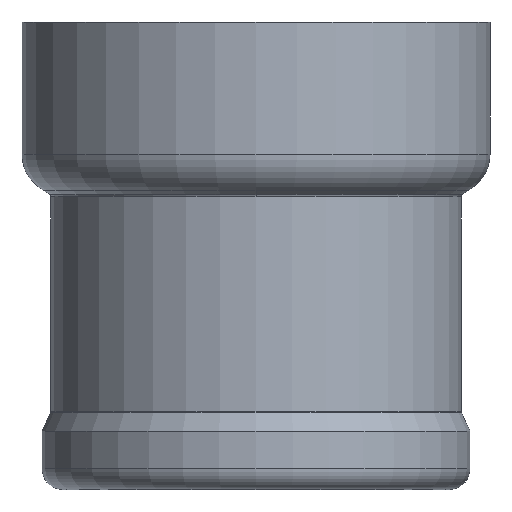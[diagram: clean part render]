
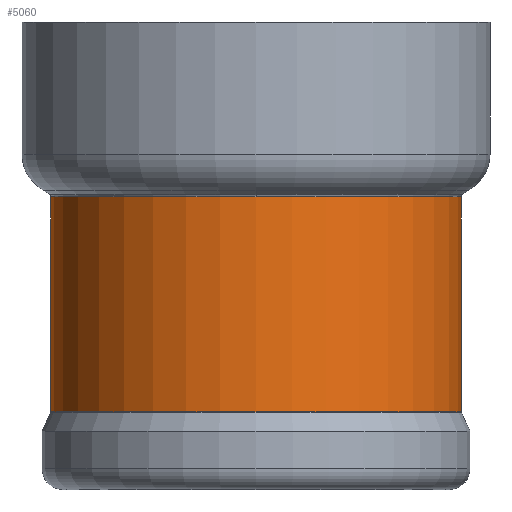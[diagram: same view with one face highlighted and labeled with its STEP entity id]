
A CAD part, left-side view. The second image highlights one B-rep face of the part: STEP entity #5060.
In plain terms, the highlighted cylindrical face has radius 24.55 mm (diameter 49.1 mm), a partial arc.
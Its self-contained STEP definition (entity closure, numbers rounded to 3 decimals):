
#1580=CARTESIAN_POINT('',(100.07,77.117,
0.));
#1590=VERTEX_POINT('',#1580);
#1780=CARTESIAN_POINT('',(100.07,28.017,
0.));
#1790=VERTEX_POINT('',#1780);
#1820=CARTESIAN_POINT('',(100.07,52.567,0.));
#1830=DIRECTION('',(1.,0.,0.));
#1840=DIRECTION('',(0.,-1.,0.));
#1850=AXIS2_PLACEMENT_3D('',#1820,#1830,#1840);
#1860=CIRCLE('',#1850,24.55);
#3170=CARTESIAN_POINT('',(74.155,28.017,
0.));
#3180=DIRECTION('',(-1.,0.,0.));
#3190=VECTOR('',#3180,1.);
#3200=LINE('',#3170,#3190);
#3210=CARTESIAN_POINT('',(74.395,28.017,
0.));
#3220=VERTEX_POINT('',#3210);
#3230=EDGE_CURVE('',#1790,#3220,#3200,.T.);
#3250=CARTESIAN_POINT('',(74.395,52.567,0.
));
#3260=DIRECTION('',(-1.,0.,0.));
#3270=DIRECTION('',(0.,0.,-1.));
#3280=AXIS2_PLACEMENT_3D('',#3250,#3260,#3270);
#3290=CIRCLE('',#3280,24.55);
#3340=CARTESIAN_POINT('',(74.395,77.117,
0.));
#3350=VERTEX_POINT('',#3340);
#3380=CARTESIAN_POINT('',(74.155,77.117,
0.));
#3390=DIRECTION('',(-1.,0.,0.));
#3400=VECTOR('',#3390,1.);
#3410=LINE('',#3380,#3400);
#3420=EDGE_CURVE('',#1590,#3350,#3410,.T.);
#3580=CARTESIAN_POINT('',(74.395,52.567,-24.55));
#3590=VERTEX_POINT('',#3580);
#3640=EDGE_CURVE('',#3350,#3590,#3290,.T.);
#4920=CARTESIAN_POINT('',(74.155,52.567,0.));
#4930=DIRECTION('',(-1.,0.,0.));
#4940=DIRECTION('',(0.,-1.,0.));
#4950=AXIS2_PLACEMENT_3D('',#4920,#4930,#4940);
#4960=CYLINDRICAL_SURFACE('',#4950,24.55);
#4970=EDGE_CURVE('',#3590,#3220,#3290,.T.);
#4980=ORIENTED_EDGE('',*,*,#4970,.F.);
#4990=ORIENTED_EDGE('',*,*,#3230,.T.);
#5000=EDGE_CURVE('',#1790,#1590,#1860,.T.);
#5010=ORIENTED_EDGE('',*,*,#5000,.F.);
#5020=ORIENTED_EDGE('',*,*,#3420,.F.);
#5030=ORIENTED_EDGE('',*,*,#3640,.F.);
#5040=EDGE_LOOP('',(#5030,#5020,#5010,#4990,#4980));
#5050=FACE_OUTER_BOUND('',#5040,.T.);
#5060=ADVANCED_FACE('',(#5050),#4960,.T.);
